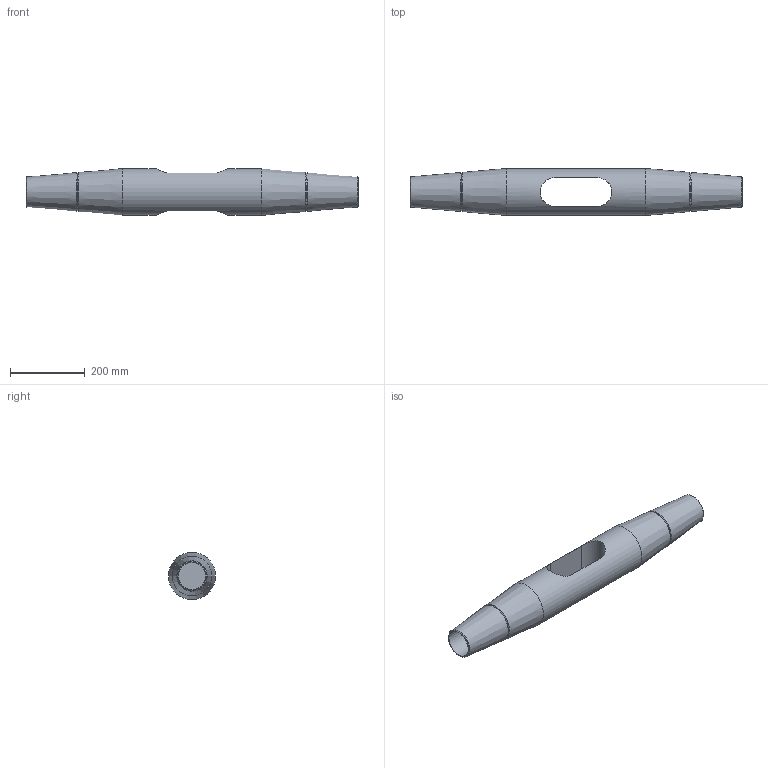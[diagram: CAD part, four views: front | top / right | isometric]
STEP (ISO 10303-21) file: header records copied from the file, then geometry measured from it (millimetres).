
FILE_DESCRIPTION(/* description */ (''),/* implementation_level */ '2;1');
FILE_NAME(/* name */ 'G:\Engineering\700 CAD\Internet-PX-1-step-igs-dxf\520-KMF-Arbeitsdateien\520-070-KMF.stp',/* time_stamp */ '2020-07-02T13:26:28+02:00',/* author */ ('schwarz'),/* organization */ (''),/* preprocessor_version */ 'ST-DEVELOPER v16.1',/* originating_system */ 'Autodesk Inventor 2016',/* authorisation */ '');
FILE_SCHEMA (('AUTOMOTIVE_DESIGN { 1 0 10303 214 3 1 1 }'));
Length unit declared in the file: centimetre
Products named in the file (1): Kreuzmuffen-Set 520 070 Kunde
Bounding box: 890 x 126 x 126 mm (x, y, z)
Volume: 6618027.8 mm3; surface area: 396288 mm2
Topology: 1 solids, 1 shells, 21 faces, 41 edges, 24 vertices
Faces by surface type: cone 10, plane 6, cylinder 5
Full cylindrical faces by diameter (mm): 73 x2, 126 x1
Entity records: 653 total; most frequent: CARTESIAN_POINT 206, DIRECTION 84, ORIENTED_EDGE 56, EDGE_LOOP 38, AXIS2_PLACEMENT_3D 38, EDGE_CURVE 28, VERTEX_POINT 24, STYLED_ITEM 22
